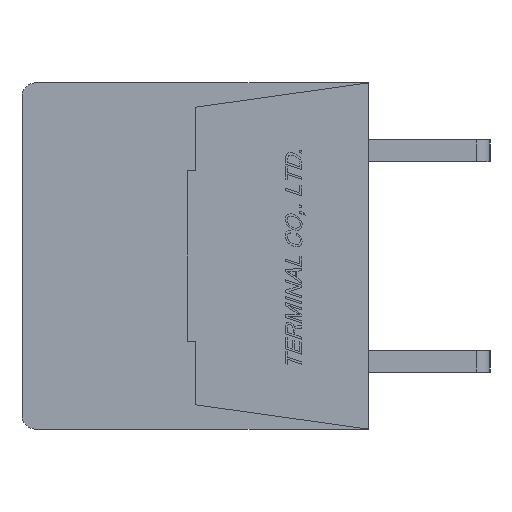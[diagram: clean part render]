
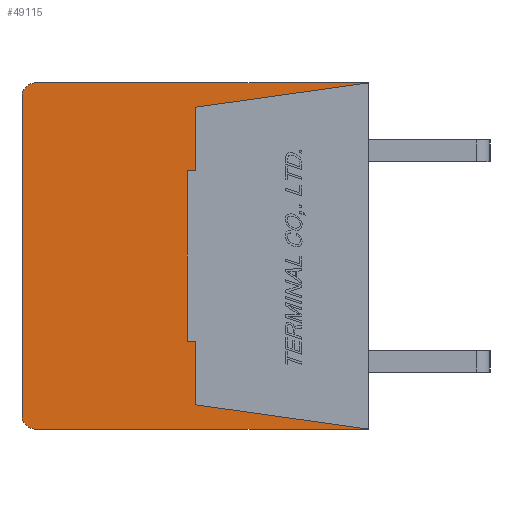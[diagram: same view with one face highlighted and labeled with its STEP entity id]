
A CAD part, left-side view. The second image highlights one B-rep face of the part: STEP entity #49115.
In plain terms, the highlighted planar face has unit normal (-1, 0, 0).
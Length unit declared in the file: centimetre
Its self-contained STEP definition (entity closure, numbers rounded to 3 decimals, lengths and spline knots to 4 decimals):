
#2497=CIRCLE('',#84023,0.05);
#2498=CIRCLE('',#84026,0.05);
#4477=VERTEX_POINT('',#68433);
#4478=VERTEX_POINT('',#68435);
#4479=VERTEX_POINT('',#68439);
#4480=VERTEX_POINT('',#68443);
#4481=VERTEX_POINT('',#68447);
#4482=VERTEX_POINT('',#68451);
#4483=VERTEX_POINT('',#68454);
#4484=VERTEX_POINT('',#68456);
#4485=VERTEX_POINT('',#68458);
#4486=VERTEX_POINT('',#68460);
#4487=VERTEX_POINT('',#68462);
#4488=VERTEX_POINT('',#68464);
#9618=VECTOR('',#57045,1.);
#9622=VECTOR('',#57054,1.);
#9625=VECTOR('',#57062,1.);
#9626=VECTOR('',#57063,1.);
#9627=VECTOR('',#57064,1.);
#9628=VECTOR('',#57065,1.);
#9629=VECTOR('',#57066,1.);
#9630=VECTOR('',#57067,1.);
#9631=VECTOR('',#57068,1.);
#9632=VECTOR('',#57069,1.);
#15385=LINE('',#68434,#9618);
#15389=LINE('',#68444,#9622);
#15392=LINE('',#68452,#9625);
#15393=LINE('',#68453,#9626);
#15394=LINE('',#68455,#9627);
#15395=LINE('',#68457,#9628);
#15396=LINE('',#68459,#9629);
#15397=LINE('',#68461,#9630);
#15398=LINE('',#68463,#9631);
#15399=LINE('',#68465,#9632);
#21870=EDGE_CURVE('',#4478,#4477,#15385,.T.);
#21873=EDGE_CURVE('',#4479,#4477,#2497,.T.);
#21875=EDGE_CURVE('',#4479,#4480,#15389,.T.);
#21877=EDGE_CURVE('',#4481,#4480,#2498,.T.);
#21879=EDGE_CURVE('',#4481,#4482,#15392,.T.);
#21880=EDGE_CURVE('',#4483,#4478,#15393,.T.);
#21881=EDGE_CURVE('',#4482,#4484,#15394,.T.);
#21882=EDGE_CURVE('',#4484,#4485,#15395,.T.);
#21883=EDGE_CURVE('',#4485,#4486,#15396,.T.);
#21884=EDGE_CURVE('',#4486,#4487,#15397,.T.);
#21885=EDGE_CURVE('',#4487,#4488,#15398,.T.);
#21886=EDGE_CURVE('',#4488,#4483,#15399,.T.);
#31817=ORIENTED_EDGE('',*,*,#21880,.T.);
#31818=ORIENTED_EDGE('',*,*,#21870,.T.);
#31819=ORIENTED_EDGE('',*,*,#21873,.F.);
#31820=ORIENTED_EDGE('',*,*,#21875,.T.);
#31821=ORIENTED_EDGE('',*,*,#21877,.F.);
#31822=ORIENTED_EDGE('',*,*,#21879,.T.);
#31823=ORIENTED_EDGE('',*,*,#21881,.T.);
#31824=ORIENTED_EDGE('',*,*,#21882,.T.);
#31825=ORIENTED_EDGE('',*,*,#21883,.T.);
#31826=ORIENTED_EDGE('',*,*,#21884,.T.);
#31827=ORIENTED_EDGE('',*,*,#21885,.T.);
#31828=ORIENTED_EDGE('',*,*,#21886,.T.);
#42789=EDGE_LOOP('',(#31817,#31818,#31819,#31820,#31821,#31822,#31823,#31824,
#31825,#31826,#31827,#31828));
#46018=FACE_BOUND('',#42789,.T.);
#49115=ADVANCED_FACE('',(#46018),#51779,.F.);
#51779=PLANE('',#84020);
#56931=DIRECTION('',(1.,0.,0.));
#57045=DIRECTION('',(0.,1.,0.));
#57050=DIRECTION('',(1.,0.,0.));
#57051=DIRECTION('',(0.,0.,-0.05));
#57054=DIRECTION('',(0.,0.,-1.));
#57058=DIRECTION('',(1.,0.,0.));
#57059=DIRECTION('',(0.,0.,-0.05));
#57062=DIRECTION('',(0.,-1.,0.));
#57063=DIRECTION('',(0.,-0.99,0.139));
#57064=DIRECTION('',(0.,0.99,0.139));
#57065=DIRECTION('',(0.,0.,1.));
#57066=DIRECTION('',(0.,1.,0.));
#57067=DIRECTION('',(0.,0.,1.));
#57068=DIRECTION('',(0.,-1.,0.));
#57069=DIRECTION('',(0.,0.,1.));
#68000=CARTESIAN_POINT('',(-1.,0.6345,0.));
#68433=CARTESIAN_POINT('',(-1.,1.23,0.64));
#68434=CARTESIAN_POINT('',(-1.,0.,0.64));
#68435=CARTESIAN_POINT('',(-1.,0.,0.64));
#68439=CARTESIAN_POINT('',(-1.,1.28,0.59));
#68440=CARTESIAN_POINT('',(-1.,1.23,0.59));
#68443=CARTESIAN_POINT('',(-1.,1.28,-0.59));
#68444=CARTESIAN_POINT('',(-1.,1.28,0.59));
#68447=CARTESIAN_POINT('',(-1.,1.23,-0.64));
#68448=CARTESIAN_POINT('',(-1.,1.23,-0.59));
#68451=CARTESIAN_POINT('',(-1.,0.,-0.64));
#68452=CARTESIAN_POINT('',(-1.,1.23,-0.64));
#68453=CARTESIAN_POINT('',(-1.,0.64,0.55));
#68454=CARTESIAN_POINT('',(-1.,0.64,0.55));
#68455=CARTESIAN_POINT('',(-1.,0.,-0.64));
#68456=CARTESIAN_POINT('',(-1.,0.64,-0.55));
#68457=CARTESIAN_POINT('',(-1.,0.64,-0.55));
#68458=CARTESIAN_POINT('',(-1.,0.64,-0.315));
#68459=CARTESIAN_POINT('',(-1.,0.64,-0.315));
#68460=CARTESIAN_POINT('',(-1.,0.67,-0.315));
#68461=CARTESIAN_POINT('',(-1.,0.67,-0.315));
#68462=CARTESIAN_POINT('',(-1.,0.67,0.315));
#68463=CARTESIAN_POINT('',(-1.,0.67,0.315));
#68464=CARTESIAN_POINT('',(-1.,0.64,0.315));
#68465=CARTESIAN_POINT('',(-1.,0.64,0.315));
#84020=AXIS2_PLACEMENT_3D('',#68000,#56931,$);
#84023=AXIS2_PLACEMENT_3D('',#68440,#57050,#57051);
#84026=AXIS2_PLACEMENT_3D('',#68448,#57058,#57059);
